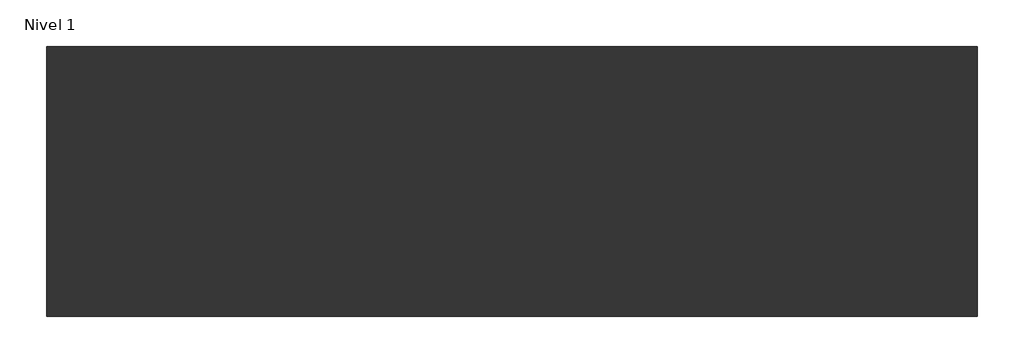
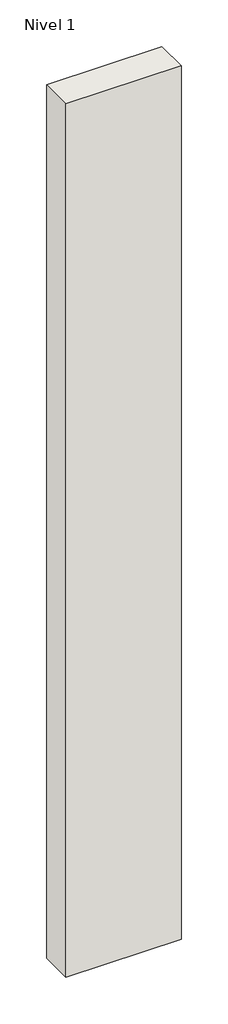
# One storey: 1 wall.
"""IFC4 building model written with IfcOpenShell, lengths in millimetres."""

from ifc_helpers import new_model, si_unit, origin, origin_with_axes, place, context, project, spatial, polyline, outline, extrude, element, save

model = new_model("IFC4")

# Units and contexts
model_context = context("Model", 3, world=origin())
ifc_project = project(units=[si_unit("LENGTHUNIT", "METRE", prefix="MILLI")], contexts=[model_context])

# Site, building, storey
site = spatial("IfcSite", under=ifc_project)
building = spatial("IfcBuilding", under=site)
storey = spatial("IfcBuildingStorey", under=building, Name="Nivel 1", Elevation=0.0)

# Wall
placement = place(None, origin())
element("IfcWall", 1, ObjectType="LC 1/2 pie + cámara aire no ventilada + aisl. poliuretano + LH 4cm + enlucido", at=placement, inside=storey, context=model_context, shape_type="SweptSolid", body=[
    extrude(outline(polyline([(-3167.1347582, 3511.9505819), (-4167.1347582, 3511.9505819), (-4167.1347582, 3801.9505819), (-3167.1347582, 3801.9505819), (-3167.1347582, 3511.9505819)])), origin_with_axes(), (0.0, 0.0, 1.0), 8000.0),
])

save(model, "model.ifc")
